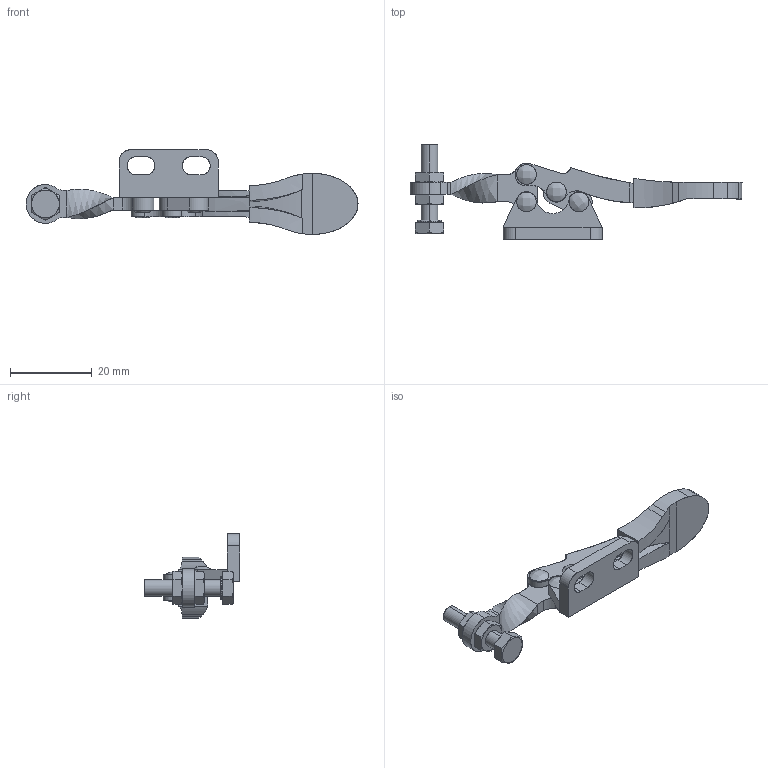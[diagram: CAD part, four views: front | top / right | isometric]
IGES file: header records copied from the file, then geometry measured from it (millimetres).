
Start section: SolidWorks IGES file using analytic representation for surfaces
Global section: file name: C:\Users\cbrechard\Desktop\SGH-220030-GM.IGS; native system: SolidWorks 2017; preprocessor: SolidWorks 2017; author: cbrechard; date: 250428.151038; units: millimetre
Bounding box: 81.21 x 23.26 x 20.77 mm (x, y, z)
Surface area: 4816.3 mm2 (no closed solid volume)
Topology: 0 solids, 0 shells, 206 faces, 3427 edges, 3425 vertices
Faces by surface type: revolution 106, bspline 100
